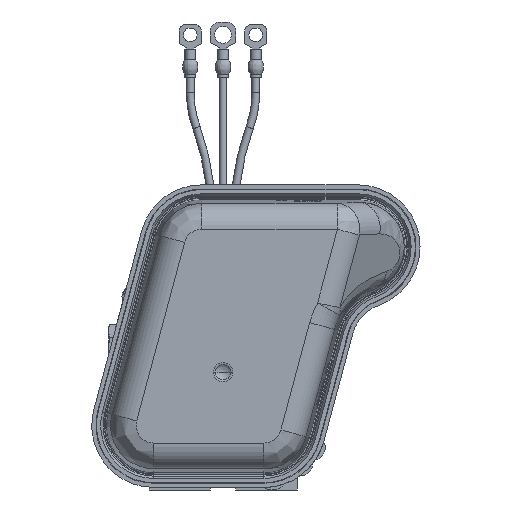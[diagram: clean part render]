
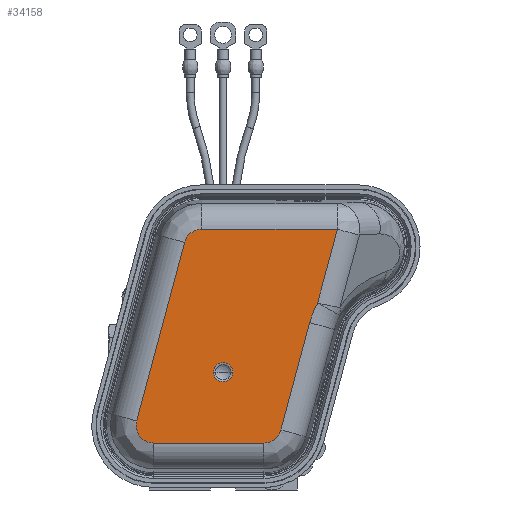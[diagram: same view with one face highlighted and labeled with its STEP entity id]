
A CAD part, front view. The second image highlights one B-rep face of the part: STEP entity #34158.
In plain terms, the highlighted planar face has unit normal (0, -1, 0).
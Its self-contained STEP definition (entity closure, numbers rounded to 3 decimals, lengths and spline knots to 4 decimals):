
#28441=CARTESIAN_POINT('',(-1.3488,-3.892,-0.765));
#28442=DIRECTION('',(0.,-1.,0.));
#28443=DIRECTION('',(-0.966,0.,0.259));
#28444=AXIS2_PLACEMENT_3D('',#28441,#28442,#28443);
#28446=DIRECTION('',(-0.259,0.,-0.966));
#28447=VECTOR('',#28446,3.5955);
#28448=CARTESIAN_POINT('',(-0.7481,-3.892,2.7964));
#28449=LINE('',#28448,#28447);
#28450=CARTESIAN_POINT('',(-0.4183,-3.892,2.708));
#28451=DIRECTION('',(0.,-1.,0.));
#28452=DIRECTION('',(0.,0.,1.));
#28453=AXIS2_PLACEMENT_3D('',#28450,#28451,#28452);
#28455=DIRECTION('',(0.259,0.,0.966));
#28456=VECTOR('',#28455,1.4867);
#28457=CARTESIAN_POINT('',(1.8363,-3.892,
1.6134));
#28458=LINE('',#28457,#28456);
#28459=CARTESIAN_POINT('',(3.319,-3.892,0.795));
#28460=DIRECTION('',(0.,1.,0.));
#28461=DIRECTION('',(-0.966,0.,0.259));
#28462=AXIS2_PLACEMENT_3D('',#28459,#28460,#28461);
#28464=DIRECTION('',(0.259,0.,0.966));
#28465=VECTOR('',#28464,2.1603);
#28466=CARTESIAN_POINT('',(1.124,-3.892,-0.8534));
#28467=LINE('',#28466,#28465);
#28468=CARTESIAN_POINT('',(0.7942,-3.892,-0.765));
#28469=DIRECTION('',(0.,-1.,0.));
#28470=DIRECTION('',(0.,0.,-1.));
#28471=AXIS2_PLACEMENT_3D('',#28468,#28469,#28470);
#28473=CARTESIAN_POINT('',(0.,-3.892,0.27));
#28474=DIRECTION('',(0.,1.,0.));
#28475=DIRECTION('',(-1.,0.,0.));
#28476=AXIS2_PLACEMENT_3D('',#28473,#28474,#28475);
#28478=CARTESIAN_POINT('',(0.,-3.892,0.27));
#28479=DIRECTION('',(0.,1.,0.));
#28480=DIRECTION('',(1.,0.,0.));
#28481=AXIS2_PLACEMENT_3D('',#28478,#28479,#28480);
#28483=DIRECTION('',(1.,0.,0.));
#28484=VECTOR('',#28483,2.143);
#28485=CARTESIAN_POINT('',(-1.3488,-3.892,-1.1065));
#28486=LINE('',#28485,#28484);
#30975=DIRECTION('',(-1.,0.,0.));
#30976=VECTOR('',#30975,2.6394);
#30977=CARTESIAN_POINT('',(2.2211,-3.892,
3.0495));
#30978=LINE('',#30977,#30976);
#32548=CARTESIAN_POINT('',(-1.3488,-3.892,-1.1065));
#32549=CARTESIAN_POINT('',(0.7942,-3.892,-1.1065));
#32550=VERTEX_POINT('',#32548);
#32551=VERTEX_POINT('',#32549);
#32552=CARTESIAN_POINT('',(-1.6787,-3.892,-0.6766));
#32553=VERTEX_POINT('',#32552);
#32554=CARTESIAN_POINT('',(-0.7481,-3.892,2.7964));
#32555=VERTEX_POINT('',#32554);
#32556=CARTESIAN_POINT('',(-0.4183,-3.892,3.0495));
#32557=VERTEX_POINT('',#32556);
#32558=CARTESIAN_POINT('',(2.2211,-3.892,
3.0495));
#32559=VERTEX_POINT('',#32558);
#32560=CARTESIAN_POINT('',(1.8363,-3.892,
1.6134));
#32561=VERTEX_POINT('',#32560);
#32562=CARTESIAN_POINT('',(1.6832,-3.892,1.2333));
#32563=VERTEX_POINT('',#32562);
#32564=CARTESIAN_POINT('',(1.124,-3.892,-0.8534));
#32565=VERTEX_POINT('',#32564);
#33663=CARTESIAN_POINT('',(0.1865,-3.892,0.27));
#33665=VERTEX_POINT('',#33663);
#33666=CARTESIAN_POINT('',(-0.1865,-3.892,0.27));
#33668=VERTEX_POINT('',#33666);
#34128=CARTESIAN_POINT('',(0.2654,-3.892,0.9715));
#34129=DIRECTION('',(0.,1.,0.));
#34130=DIRECTION('',(-1.,0.,0.));
#34131=AXIS2_PLACEMENT_3D('',#34128,#34129,#34130);
#34132=PLANE('',#34131);
#34134=ORIENTED_EDGE('',*,*,#34133,.F.);
#34136=ORIENTED_EDGE('',*,*,#34135,.F.);
#34138=ORIENTED_EDGE('',*,*,#34137,.F.);
#34140=ORIENTED_EDGE('',*,*,#34139,.F.);
#34142=ORIENTED_EDGE('',*,*,#34141,.F.);
#34143=ORIENTED_EDGE('',*,*,#34120,.F.);
#34145=ORIENTED_EDGE('',*,*,#34144,.F.);
#34147=ORIENTED_EDGE('',*,*,#34146,.F.);
#34149=ORIENTED_EDGE('',*,*,#34148,.F.);
#34150=EDGE_LOOP('',(#34134,#34136,#34138,#34140,#34142,#34143,#34145,#34147,
#34149));
#34151=FACE_OUTER_BOUND('',#34150,.F.);
#34153=ORIENTED_EDGE('',*,*,#34152,.F.);
#34155=ORIENTED_EDGE('',*,*,#34154,.F.);
#34156=EDGE_LOOP('',(#34153,#34155));
#34157=FACE_BOUND('',#34156,.F.);
#34158=ADVANCED_FACE('',(#34151,#34157),#34132,.F.);
#28445=CIRCLE('',#28444,0.3415);
#28454=CIRCLE('',#28453,0.3415);
#28463=CIRCLE('',#28462,1.6935);
#28472=CIRCLE('',#28471,0.3415);
#28477=CIRCLE('',#28476,0.1865);
#28482=CIRCLE('',#28481,0.1865);
#34120=EDGE_CURVE('',#32561,#32559,#28458,.T.);
#34133=EDGE_CURVE('',#32550,#32551,#28486,.T.);
#34135=EDGE_CURVE('',#32553,#32550,#28445,.T.);
#34137=EDGE_CURVE('',#32555,#32553,#28449,.T.);
#34139=EDGE_CURVE('',#32557,#32555,#28454,.T.);
#34141=EDGE_CURVE('',#32559,#32557,#30978,.T.);
#34144=EDGE_CURVE('',#32563,#32561,#28463,.T.);
#34146=EDGE_CURVE('',#32565,#32563,#28467,.T.);
#34148=EDGE_CURVE('',#32551,#32565,#28472,.T.);
#34152=EDGE_CURVE('',#33668,#33665,#28477,.T.);
#34154=EDGE_CURVE('',#33665,#33668,#28482,.T.);
